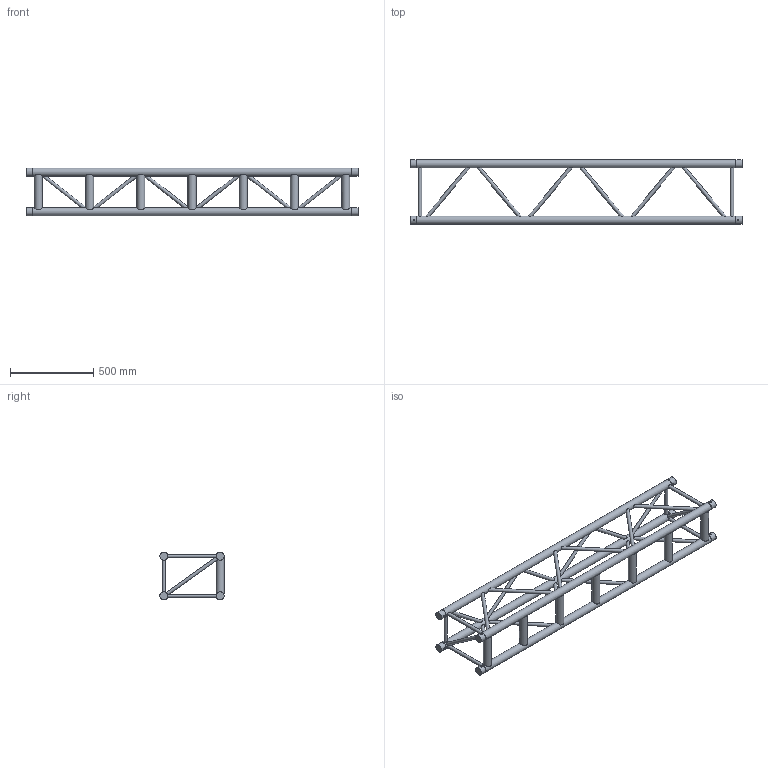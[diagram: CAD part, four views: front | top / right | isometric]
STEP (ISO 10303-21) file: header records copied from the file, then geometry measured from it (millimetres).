
FILE_DESCRIPTION(/* description */ (''),/* implementation_level */ '2;1');
FILE_NAME(/* name */ 'C:\Users\adrian.toca\Desktop\111050493.stp',/* time_stamp */ '2016-09-16T12:27:00+03:00',/* author */ ('adrian.toca'),/* organization */ (''),/* preprocessor_version */ 'ST-DEVELOPER v15.6',/* originating_system */ 'Autodesk Inventor 2015',/* authorisation */ '');
FILE_SCHEMA (('AUTOMOTIVE_DESIGN { 1 0 10303 214 3 1 1 }'));
Length unit declared in the file: millimetre
Products named in the file (1): 260030879
Bounding box: 2000 x 387.3 x 287.3 mm (x, y, z)
Volume: 19177672.9 mm3; surface area: 2024355.1 mm2
Topology: 15 solids, 18 shells, 174 faces, 381 edges, 254 vertices
Faces by surface type: cylinder 90, plane 76, cone 8
Full cylindrical faces by diameter (mm): 10 x8, 20 x26, 48.3 x19
Entity records: 6090 total; most frequent: CARTESIAN_POINT 2742, DIRECTION 618, ORIENTED_EDGE 568, EDGE_LOOP 286, AXIS2_PLACEMENT_3D 284, EDGE_CURVE 270, VERTEX_POINT 214, FACE_BOUND 149
